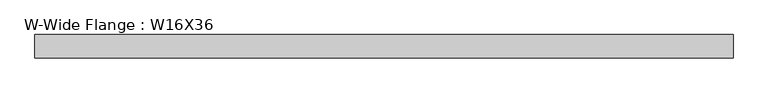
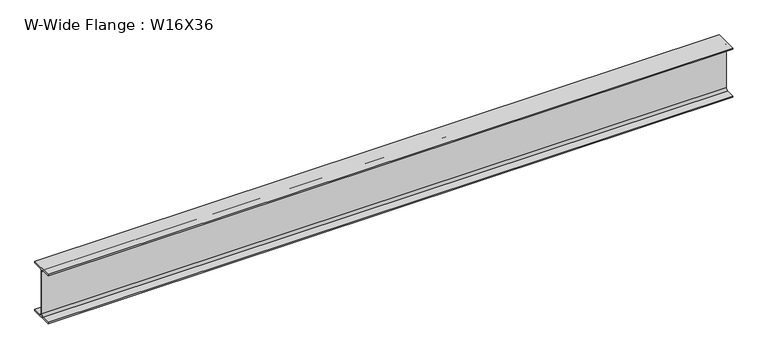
"""IFC4 building model written with IfcOpenShell, lengths in millimetres: beam geometry, W-Wide Flange : W16X36."""

from ifc_helpers import new_model, si_unit, point, frame, frame_2d, origin, place, context, project, spatial, polyline, circle_curve, trimmed, segment, composite_curve, outline, extrude, source, transform, mapped, element, save


def w_wide_flange_w16x36_ed80a345(model_context):
    return source(origin(), model_context, "Body", "SweptSolid", [
        extrude(outline(composite_curve([segment(polyline([(-88.773, -191.008), (-21.3995, -191.008)]), True, "CONTINUOUS"), segment(trimmed(circle_curve(frame_2d((-21.3995, -173.355)), 17.653), [point((-21.3995, -191.008))], [point((-3.7465, -173.355))], True, "CARTESIAN"), True, "CONTINUOUS"), segment(polyline([(-3.7465, -173.355), (-3.7465, 173.355)]), True, "CONTINUOUS"), segment(trimmed(circle_curve(frame_2d((-21.3995, 173.355)), 17.653), [point((-3.7465, 173.355))], [point((-21.3995, 191.008))], True, "CARTESIAN"), True, "CONTINUOUS"), segment(polyline([(-21.3995, 191.008), (-88.773, 191.008), (-88.773, 201.93), (88.773, 201.93), (88.773, 191.008), (21.3995, 191.008)]), True, "CONTINUOUS"), segment(trimmed(circle_curve(frame_2d((21.3995, 173.355)), 17.653), [point((21.3995, 191.008))], [point((3.7465, 173.355))], True, "CARTESIAN"), True, "CONTINUOUS"), segment(polyline([(3.7465, 173.355), (3.7465, -173.355)]), True, "CONTINUOUS"), segment(trimmed(circle_curve(frame_2d((21.3995, -173.355)), 17.653), [point((3.7465, -173.355))], [point((21.3995, -191.008))], True, "CARTESIAN"), True, "CONTINUOUS"), segment(polyline([(21.3995, -191.008), (88.773, -191.008), (88.773, -201.93), (-88.773, -201.93), (-88.773, -191.008)]), True, "CONTINUOUS")], self_intersect=False)), frame((-4026.027, 0.0, 0.0), z_axis=(1.0, 0.0, 0.0), x_axis=(0.0, 1.0, 0.0)), (0.0, 0.0, 1.0), 5308.854),
    ])


if __name__ == "__main__":
    model = new_model("IFC4")
    model_context = context("Model", 3, world=origin())
    ifc_project = project(units=[si_unit("LENGTHUNIT", "METRE", prefix="MILLI")], contexts=[model_context])
    site = spatial("IfcSite", under=ifc_project)
    building = spatial("IfcBuilding", under=site)
    placement = place(None, origin())
    w_wide_flange_w16x36_shape = w_wide_flange_w16x36_ed80a345(model_context)
    element("IfcBeam", 1, ObjectType="W-Wide Flange : W16X36", at=placement, inside=building, context=model_context, shape_type="MappedRepresentation", body=[
        mapped(w_wide_flange_w16x36_shape, transform((0.0, 0.0, 0.0), x_axis=(1.0, 0.0, 0.0), y_axis=(0.0, 1.0, 0.0), z_axis=(0.0, 0.0, 1.0))),
    ])
    save(model, "model.ifc")
